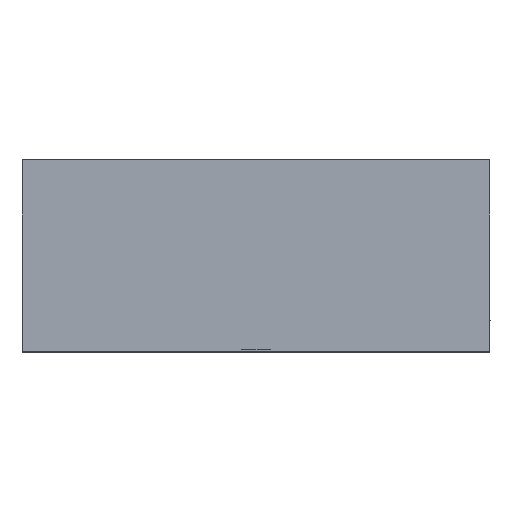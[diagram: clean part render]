
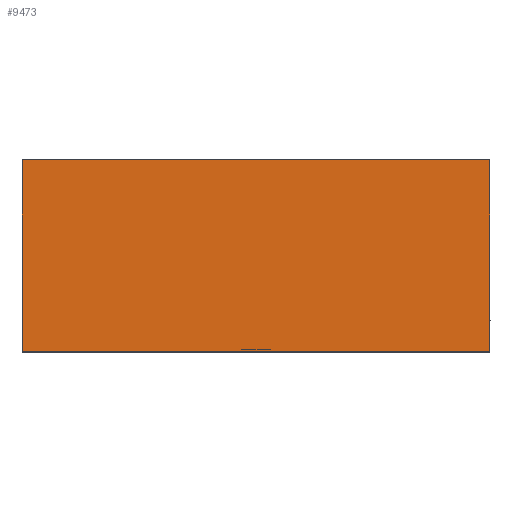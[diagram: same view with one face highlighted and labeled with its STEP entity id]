
A CAD part, top view. The second image highlights one B-rep face of the part: STEP entity #9473.
In plain terms, the highlighted planar face has unit normal (0, 0, 1).
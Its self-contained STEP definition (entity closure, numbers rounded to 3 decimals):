
#216 = VECTOR ( 'NONE', #3928, 1000. ) ;
#324 = VECTOR ( 'NONE', #9454, 1000. ) ;
#571 = EDGE_CURVE ( 'NONE', #2800, #7475, #2859, .T. ) ;
#641 = DIRECTION ( 'NONE',  ( 0., 0., -1. ) ) ;
#721 = CARTESIAN_POINT ( 'NONE',  ( 0., -14.75, 30. ) ) ;
#1064 = AXIS2_PLACEMENT_3D ( 'NONE', #7299, #641, #5890 ) ;
#1124 = VERTEX_POINT ( 'NONE', #3052 ) ;
#1164 = VERTEX_POINT ( 'NONE', #4829 ) ;
#1547 = EDGE_LOOP ( 'NONE', ( #7774, #8084, #5318, #3487 ) ) ;
#2249 = DIRECTION ( 'NONE',  ( 0., -1., 0. ) ) ;
#2319 = CARTESIAN_POINT ( 'NONE',  ( 72., -14.75, 30. ) ) ;
#2800 = VERTEX_POINT ( 'NONE', #7732 ) ;
#2859 = LINE ( 'NONE', #721, #5886 ) ;
#2958 = FACE_OUTER_BOUND ( 'NONE', #1547, .T. ) ;
#3046 = DIRECTION ( 'NONE',  ( 0., -1., 0. ) ) ;
#3052 = CARTESIAN_POINT ( 'NONE',  ( 72., -14.75, 30. ) ) ;
#3487 = ORIENTED_EDGE ( 'NONE', *, *, #7410, .T. ) ;
#3609 = VECTOR ( 'NONE', #3046, 1000. ) ;
#3928 = DIRECTION ( 'NONE',  ( -1., 0., 0. ) ) ;
#4237 = CARTESIAN_POINT ( 'NONE',  ( 72., -14.75, 30. ) ) ;
#4829 = CARTESIAN_POINT ( 'NONE',  ( 72., 14.75, 30. ) ) ;
#4885 = CARTESIAN_POINT ( 'NONE',  ( 0., -14.75, 30. ) ) ;
#5146 = PLANE ( 'NONE',  #1064 ) ;
#5318 = ORIENTED_EDGE ( 'NONE', *, *, #7825, .F. ) ;
#5718 = LINE ( 'NONE', #8389, #216 ) ;
#5886 = VECTOR ( 'NONE', #2249, 1000. ) ;
#5890 = DIRECTION ( 'NONE',  ( -1., 0., 0. ) ) ;
#6289 = LINE ( 'NONE', #4237, #324 ) ;
#7299 = CARTESIAN_POINT ( 'NONE',  ( 72., -14.75, 30. ) ) ;
#7410 = EDGE_CURVE ( 'NONE', #1164, #2800, #5718, .T. ) ;
#7475 = VERTEX_POINT ( 'NONE', #4885 ) ;
#7732 = CARTESIAN_POINT ( 'NONE',  ( 0., 14.75, 30. ) ) ;
#7769 = EDGE_CURVE ( 'NONE', #1124, #7475, #6289, .T. ) ;
#7774 = ORIENTED_EDGE ( 'NONE', *, *, #571, .T. ) ;
#7825 = EDGE_CURVE ( 'NONE', #1164, #1124, #9570, .T. ) ;
#8084 = ORIENTED_EDGE ( 'NONE', *, *, #7769, .F. ) ;
#8389 = CARTESIAN_POINT ( 'NONE',  ( 72., 14.75, 30. ) ) ;
#9454 = DIRECTION ( 'NONE',  ( -1., 0., 0. ) ) ;
#9473 = ADVANCED_FACE ( 'NONE', ( #2958 ), #5146, .F. ) ;
#9570 = LINE ( 'NONE', #2319, #3609 ) ;
